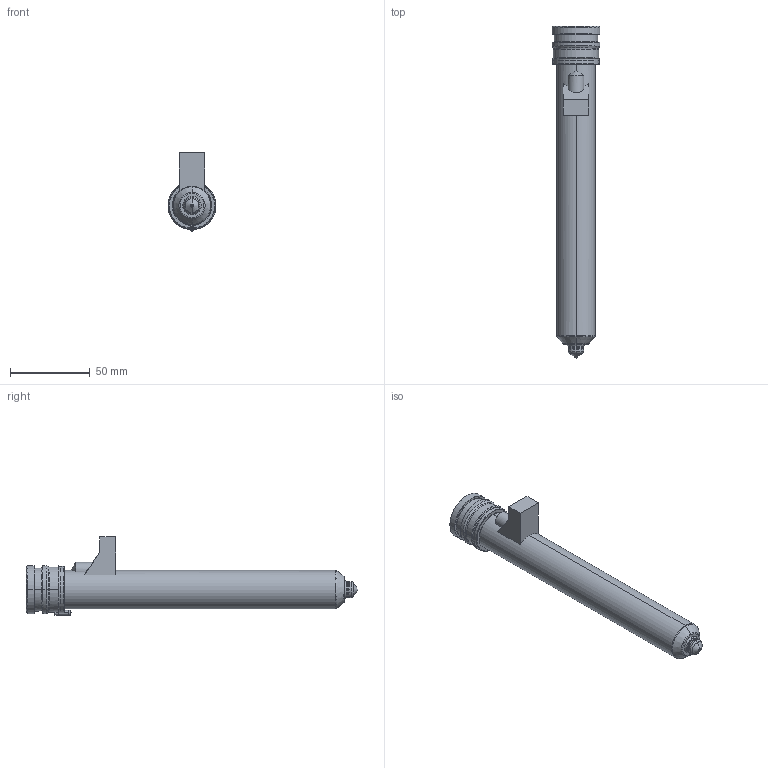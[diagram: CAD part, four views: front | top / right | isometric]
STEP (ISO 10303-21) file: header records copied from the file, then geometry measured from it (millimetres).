
FILE_DESCRIPTION((''),'2;1');
FILE_NAME('MPN-10-29-TX10-186-M','2026-02-05T12:51:59',('UPTIO'),('Thermoplay S.p.A.'),'CREO PARAMETRIC BY PTC INC, 2023494','CREO PARAMETRIC BY PTC INC, 2023494','');
FILE_SCHEMA(('CONFIG_CONTROL_DESIGN','SHAPE_APPEARANCE_LAYERS_GROUPS'));
Length unit declared in the file: millimetre
Products named in the file (1): MPN-10-29-TX10-186-M
Bounding box: 30 x 207.5 x 49 mm (x, y, z)
Volume: 64105.2 mm3; surface area: 65818.5 mm2
Topology: 3 solids, 5 shells, 541 faces, 1383 edges, 844 vertices
Faces by surface type: cylinder 177, plane 146, bspline 73, torus 67, cone 64, sphere 10, extrusion 4
Entity records: 29291 total; most frequent: CARTESIAN_POINT 13525, ORIENTED_EDGE 2748, DIRECTION 2568, EDGE_CURVE 1374, AXIS2_PLACEMENT_3D 1017, VERTEX_POINT 844, EDGE_LOOP 570, CIRCLE 552
